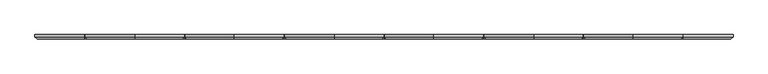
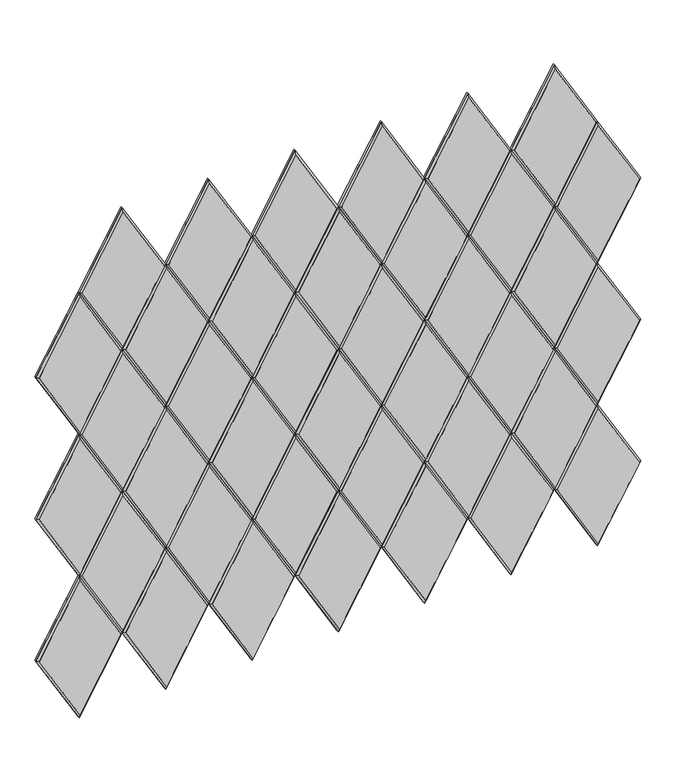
"""IFC4 building model written with IfcOpenShell, lengths in millimetres: proxy geometry, Wall_Cissu 7.3dm."""

from ifc_helpers import new_model, si_unit, origin, place, context, project, spatial, faceted_brep, source, transform, mapped, element, save


def generic_models_63845ec4(model_context):
    return source(origin(), model_context, "Body", "Brep", [
        faceted_brep([(10713.5381137, 6.0, 1209.8374891), (10853.2381137, 6.0, 1451.8049869), (10992.9381137, 6.0, 1209.8374891), (10853.2381137, 6.0, 967.8699913), (10713.5381137, 0.0, 1209.8374891), (10853.2381137, 0.0, 967.8699913), (10992.9381137, 0.0, 1209.8374891), (10853.2381137, 0.0, 1451.8049869), (10986.0099104, -6.0, 1209.8374891), (10853.2381137, -6.0, 1439.8049869), (10720.4663169, -6.0, 1209.8374891), (10853.2381137, -6.0, 979.8699913)], [[[0, 1, 2, 3]], [[4, 0, 3, 5]], [[5, 3, 2, 6]], [[6, 2, 1, 7]], [[7, 1, 0, 4]], [[8, 9, 10, 11]], [[4, 5, 11, 10]], [[5, 6, 8, 11]], [[6, 7, 9, 8]], [[7, 4, 10, 9]]]),
        faceted_brep([(10434.1381137, 6.0, 1209.8374891), (10573.8381137, 6.0, 1451.8049869), (10713.5381137, 6.0, 1209.8374891), (10573.8381137, 6.0, 967.8699913), (10434.1381137, 0.0, 1209.8374891), (10573.8381137, 0.0, 967.8699913), (10713.5381137, 0.0, 1209.8374891), (10573.8381137, 0.0, 1451.8049869), (10706.6099104, -6.0, 1209.8374891), (10573.8381137, -6.0, 1439.8049869), (10441.0663169, -6.0, 1209.8374891), (10573.8381137, -6.0, 979.8699913)], [[[0, 1, 2, 3]], [[4, 0, 3, 5]], [[5, 3, 2, 6]], [[6, 2, 1, 7]], [[7, 1, 0, 4]], [[8, 9, 10, 11]], [[4, 5, 11, 10]], [[5, 6, 8, 11]], [[6, 7, 9, 8]], [[7, 4, 10, 9]]]),
        faceted_brep([(10154.7381137, 6.0, 1209.8374891), (10294.4381137, 6.0, 1451.8049869), (10434.1381137, 6.0, 1209.8374891), (10294.4381137, 6.0, 967.8699913), (10154.7381137, 0.0, 1209.8374891), (10294.4381137, 0.0, 967.8699913), (10434.1381137, 0.0, 1209.8374891), (10294.4381137, 0.0, 1451.8049869), (10427.2099104, -6.0, 1209.8374891), (10294.4381137, -6.0, 1439.8049869), (10161.6663169, -6.0, 1209.8374891), (10294.4381137, -6.0, 979.8699913)], [[[0, 1, 2, 3]], [[4, 0, 3, 5]], [[5, 3, 2, 6]], [[6, 2, 1, 7]], [[7, 1, 0, 4]], [[8, 9, 10, 11]], [[4, 5, 11, 10]], [[5, 6, 8, 11]], [[6, 7, 9, 8]], [[7, 4, 10, 9]]]),
        faceted_brep([(9875.3381137, 6.0, 1209.8374891), (10015.0381137, 6.0, 1451.8049869), (10154.7381137, 6.0, 1209.8374891), (10015.0381137, 6.0, 967.8699913), (9875.3381137, 0.0, 1209.8374891), (10015.0381137, 0.0, 967.8699913), (10154.7381137, 0.0, 1209.8374891), (10015.0381137, 0.0, 1451.8049869), (10147.8099104, -6.0, 1209.8374891), (10015.0381137, -6.0, 1439.8049869), (9882.2663169, -6.0, 1209.8374891), (10015.0381137, -6.0, 979.8699913)], [[[0, 1, 2, 3]], [[4, 0, 3, 5]], [[5, 3, 2, 6]], [[6, 2, 1, 7]], [[7, 1, 0, 4]], [[8, 9, 10, 11]], [[4, 5, 11, 10]], [[5, 6, 8, 11]], [[6, 7, 9, 8]], [[7, 4, 10, 9]]]),
        faceted_brep([(9595.9381137, 6.0, 1209.8374891), (9735.6381137, 6.0, 1451.8049869), (9875.3381137, 6.0, 1209.8374891), (9735.6381137, 6.0, 967.8699913), (9595.9381137, 0.0, 1209.8374891), (9735.6381137, 0.0, 967.8699913), (9875.3381137, 0.0, 1209.8374891), (9735.6381137, 0.0, 1451.8049869), (9868.4099104, -6.0, 1209.8374891), (9735.6381137, -6.0, 1439.8049869), (9602.8663169, -6.0, 1209.8374891), (9735.6381137, -6.0, 979.8699913)], [[[0, 1, 2, 3]], [[4, 0, 3, 5]], [[5, 3, 2, 6]], [[6, 2, 1, 7]], [[7, 1, 0, 4]], [[8, 9, 10, 11]], [[4, 5, 11, 10]], [[5, 6, 8, 11]], [[6, 7, 9, 8]], [[7, 4, 10, 9]]]),
        faceted_brep([(9316.5381137, 6.0, 1209.8374891), (9456.2381137, 6.0, 1451.8049869), (9595.9381137, 6.0, 1209.8374891), (9456.2381137, 6.0, 967.8699913), (9316.5381137, 0.0, 1209.8374891), (9456.2381137, 0.0, 967.8699913), (9595.9381137, 0.0, 1209.8374891), (9456.2381137, 0.0, 1451.8049869), (9589.0099104, -6.0, 1209.8374891), (9456.2381137, -6.0, 1439.8049869), (9323.4663169, -6.0, 1209.8374891), (9456.2381137, -6.0, 979.8699913)], [[[0, 1, 2, 3]], [[4, 0, 3, 5]], [[5, 3, 2, 6]], [[6, 2, 1, 7]], [[7, 1, 0, 4]], [[8, 9, 10, 11]], [[4, 5, 11, 10]], [[5, 6, 8, 11]], [[6, 7, 9, 8]], [[7, 4, 10, 9]]]),
        faceted_brep([(9037.1381137, 6.0, 1209.8374891), (9176.8381137, 6.0, 1451.8049869), (9316.5381137, 6.0, 1209.8374891), (9176.8381137, 6.0, 967.8699913), (9037.1381137, 0.0, 1209.8374891), (9176.8381137, 0.0, 967.8699913), (9316.5381137, 0.0, 1209.8374891), (9176.8381137, 0.0, 1451.8049869), (9309.6099104, -6.0, 1209.8374891), (9176.8381137, -6.0, 1439.8049869), (9044.0663169, -6.0, 1209.8374891), (9176.8381137, -6.0, 979.8699913)], [[[0, 1, 2, 3]], [[4, 0, 3, 5]], [[5, 3, 2, 6]], [[6, 2, 1, 7]], [[7, 1, 0, 4]], [[8, 9, 10, 11]], [[4, 5, 11, 10]], [[5, 6, 8, 11]], [[6, 7, 9, 8]], [[7, 4, 10, 9]]]),
        faceted_brep([(9037.1381137, 6.0, 1693.7724847), (9176.8381137, 6.0, 1935.7399825), (9316.5381137, 6.0, 1693.7724847), (9176.8381137, 6.0, 1451.8049869), (9037.1381137, 0.0, 1693.7724847), (9176.8381137, 0.0, 1451.8049869), (9316.5381137, 0.0, 1693.7724847), (9176.8381137, 0.0, 1935.7399825), (9309.6099104, -6.0, 1693.7724847), (9176.8381137, -6.0, 1923.7399825), (9044.0663169, -6.0, 1693.7724847), (9176.8381137, -6.0, 1463.8049869)], [[[0, 1, 2, 3]], [[4, 0, 3, 5]], [[5, 3, 2, 6]], [[6, 2, 1, 7]], [[7, 1, 0, 4]], [[8, 9, 10, 11]], [[4, 5, 11, 10]], [[5, 6, 8, 11]], [[6, 7, 9, 8]], [[7, 4, 10, 9]]]),
        faceted_brep([(9316.5381137, 6.0, 1693.7724847), (9456.2381137, 6.0, 1935.7399825), (9595.9381137, 6.0, 1693.7724847), (9456.2381137, 6.0, 1451.8049869), (9316.5381137, 0.0, 1693.7724847), (9456.2381137, 0.0, 1451.8049869), (9595.9381137, 0.0, 1693.7724847), (9456.2381137, 0.0, 1935.7399825), (9589.0099104, -6.0, 1693.7724847), (9456.2381137, -6.0, 1923.7399825), (9323.4663169, -6.0, 1693.7724847), (9456.2381137, -6.0, 1463.8049869)], [[[0, 1, 2, 3]], [[4, 0, 3, 5]], [[5, 3, 2, 6]], [[6, 2, 1, 7]], [[7, 1, 0, 4]], [[8, 9, 10, 11]], [[4, 5, 11, 10]], [[5, 6, 8, 11]], [[6, 7, 9, 8]], [[7, 4, 10, 9]]]),
        faceted_brep([(9595.9381137, 6.0, 1693.7724847), (9735.6381137, 6.0, 1935.7399825), (9875.3381137, 6.0, 1693.7724847), (9735.6381137, 6.0, 1451.8049869), (9595.9381137, 0.0, 1693.7724847), (9735.6381137, 0.0, 1451.8049869), (9875.3381137, 0.0, 1693.7724847), (9735.6381137, 0.0, 1935.7399825), (9868.4099104, -6.0, 1693.7724847), (9735.6381137, -6.0, 1923.7399825), (9602.8663169, -6.0, 1693.7724847), (9735.6381137, -6.0, 1463.8049869)], [[[0, 1, 2, 3]], [[4, 0, 3, 5]], [[5, 3, 2, 6]], [[6, 2, 1, 7]], [[7, 1, 0, 4]], [[8, 9, 10, 11]], [[4, 5, 11, 10]], [[5, 6, 8, 11]], [[6, 7, 9, 8]], [[7, 4, 10, 9]]]),
        faceted_brep([(9875.3381137, 6.0, 1693.7724847), (10015.0381137, 6.0, 1935.7399825), (10154.7381137, 6.0, 1693.7724847), (10015.0381137, 6.0, 1451.8049869), (9875.3381137, 0.0, 1693.7724847), (10015.0381137, 0.0, 1451.8049869), (10154.7381137, 0.0, 1693.7724847), (10015.0381137, 0.0, 1935.7399825), (10147.8099104, -6.0, 1693.7724847), (10015.0381137, -6.0, 1923.7399825), (9882.2663169, -6.0, 1693.7724847), (10015.0381137, -6.0, 1463.8049869)], [[[0, 1, 2, 3]], [[4, 0, 3, 5]], [[5, 3, 2, 6]], [[6, 2, 1, 7]], [[7, 1, 0, 4]], [[8, 9, 10, 11]], [[4, 5, 11, 10]], [[5, 6, 8, 11]], [[6, 7, 9, 8]], [[7, 4, 10, 9]]]),
        faceted_brep([(10154.7381137, 6.0, 1693.7724847), (10294.4381137, 6.0, 1935.7399825), (10434.1381137, 6.0, 1693.7724847), (10294.4381137, 6.0, 1451.8049869), (10154.7381137, 0.0, 1693.7724847), (10294.4381137, 0.0, 1451.8049869), (10434.1381137, 0.0, 1693.7724847), (10294.4381137, 0.0, 1935.7399825), (10427.2099104, -6.0, 1693.7724847), (10294.4381137, -6.0, 1923.7399825), (10161.6663169, -6.0, 1693.7724847), (10294.4381137, -6.0, 1463.8049869)], [[[0, 1, 2, 3]], [[4, 0, 3, 5]], [[5, 3, 2, 6]], [[6, 2, 1, 7]], [[7, 1, 0, 4]], [[8, 9, 10, 11]], [[4, 5, 11, 10]], [[5, 6, 8, 11]], [[6, 7, 9, 8]], [[7, 4, 10, 9]]]),
        faceted_brep([(10434.1381137, 6.0, 1693.7724847), (10573.8381137, 6.0, 1935.7399825), (10713.5381137, 6.0, 1693.7724847), (10573.8381137, 6.0, 1451.8049869), (10434.1381137, 0.0, 1693.7724847), (10573.8381137, 0.0, 1451.8049869), (10713.5381137, 0.0, 1693.7724847), (10573.8381137, 0.0, 1935.7399825), (10706.6099104, -6.0, 1693.7724847), (10573.8381137, -6.0, 1923.7399825), (10441.0663169, -6.0, 1693.7724847), (10573.8381137, -6.0, 1463.8049869)], [[[0, 1, 2, 3]], [[4, 0, 3, 5]], [[5, 3, 2, 6]], [[6, 2, 1, 7]], [[7, 1, 0, 4]], [[8, 9, 10, 11]], [[4, 5, 11, 10]], [[5, 6, 8, 11]], [[6, 7, 9, 8]], [[7, 4, 10, 9]]]),
        faceted_brep([(10713.5381137, 6.0, 1693.7724847), (10853.2381137, 6.0, 1935.7399825), (10992.9381137, 6.0, 1693.7724847), (10853.2381137, 6.0, 1451.8049869), (10713.5381137, 0.0, 1693.7724847), (10853.2381137, 0.0, 1451.8049869), (10992.9381137, 0.0, 1693.7724847), (10853.2381137, 0.0, 1935.7399825), (10986.0099104, -6.0, 1693.7724847), (10853.2381137, -6.0, 1923.7399825), (10720.4663169, -6.0, 1693.7724847), (10853.2381137, -6.0, 1463.8049869)], [[[0, 1, 2, 3]], [[4, 0, 3, 5]], [[5, 3, 2, 6]], [[6, 2, 1, 7]], [[7, 1, 0, 4]], [[8, 9, 10, 11]], [[4, 5, 11, 10]], [[5, 6, 8, 11]], [[6, 7, 9, 8]], [[7, 4, 10, 9]]]),
        faceted_brep([(9176.8381137, 6.0, 1451.8049869), (9316.5381137, 6.0, 1693.7724847), (9456.2381137, 6.0, 1451.8049869), (9316.5381137, 6.0, 1209.8374891), (9176.8381137, 0.0, 1451.8049869), (9316.5381137, 0.0, 1209.8374891), (9456.2381137, 0.0, 1451.8049869), (9316.5381137, 0.0, 1693.7724847), (9449.3099104, -6.0, 1451.8049869), (9316.5381137, -6.0, 1681.7724847), (9183.7663169, -6.0, 1451.8049869), (9316.5381137, -6.0, 1221.8374891)], [[[0, 1, 2, 3]], [[4, 0, 3, 5]], [[5, 3, 2, 6]], [[6, 2, 1, 7]], [[7, 1, 0, 4]], [[8, 9, 10, 11]], [[4, 5, 11, 10]], [[5, 6, 8, 11]], [[6, 7, 9, 8]], [[7, 4, 10, 9]]]),
        faceted_brep([(9456.2381137, 6.0, 1451.8049869), (9595.9381137, 6.0, 1693.7724847), (9735.6381137, 6.0, 1451.8049869), (9595.9381137, 6.0, 1209.8374891), (9456.2381137, 0.0, 1451.8049869), (9595.9381137, 0.0, 1209.8374891), (9735.6381137, 0.0, 1451.8049869), (9595.9381137, 0.0, 1693.7724847), (9728.7099104, -6.0, 1451.8049869), (9595.9381137, -6.0, 1681.7724847), (9463.1663169, -6.0, 1451.8049869), (9595.9381137, -6.0, 1221.8374891)], [[[0, 1, 2, 3]], [[4, 0, 3, 5]], [[5, 3, 2, 6]], [[6, 2, 1, 7]], [[7, 1, 0, 4]], [[8, 9, 10, 11]], [[4, 5, 11, 10]], [[5, 6, 8, 11]], [[6, 7, 9, 8]], [[7, 4, 10, 9]]]),
        faceted_brep([(9735.6381137, 6.0, 1451.8049869), (9875.3381137, 6.0, 1693.7724847), (10015.0381137, 6.0, 1451.8049869), (9875.3381137, 6.0, 1209.8374891), (9735.6381137, 0.0, 1451.8049869), (9875.3381137, 0.0, 1209.8374891), (10015.0381137, 0.0, 1451.8049869), (9875.3381137, 0.0, 1693.7724847), (10008.1099104, -6.0, 1451.8049869), (9875.3381137, -6.0, 1681.7724847), (9742.5663169, -6.0, 1451.8049869), (9875.3381137, -6.0, 1221.8374891)], [[[0, 1, 2, 3]], [[4, 0, 3, 5]], [[5, 3, 2, 6]], [[6, 2, 1, 7]], [[7, 1, 0, 4]], [[8, 9, 10, 11]], [[4, 5, 11, 10]], [[5, 6, 8, 11]], [[6, 7, 9, 8]], [[7, 4, 10, 9]]]),
        faceted_brep([(10015.0381137, 6.0, 1451.8049869), (10154.7381137, 6.0, 1693.7724847), (10294.4381137, 6.0, 1451.8049869), (10154.7381137, 6.0, 1209.8374891), (10015.0381137, 0.0, 1451.8049869), (10154.7381137, 0.0, 1209.8374891), (10294.4381137, 0.0, 1451.8049869), (10154.7381137, 0.0, 1693.7724847), (10287.5099104, -6.0, 1451.8049869), (10154.7381137, -6.0, 1681.7724847), (10021.9663169, -6.0, 1451.8049869), (10154.7381137, -6.0, 1221.8374891)], [[[0, 1, 2, 3]], [[4, 0, 3, 5]], [[5, 3, 2, 6]], [[6, 2, 1, 7]], [[7, 1, 0, 4]], [[8, 9, 10, 11]], [[4, 5, 11, 10]], [[5, 6, 8, 11]], [[6, 7, 9, 8]], [[7, 4, 10, 9]]]),
        faceted_brep([(10294.4381137, 6.0, 1451.8049869), (10434.1381137, 6.0, 1693.7724847), (10573.8381137, 6.0, 1451.8049869), (10434.1381137, 6.0, 1209.8374891), (10294.4381137, 0.0, 1451.8049869), (10434.1381137, 0.0, 1209.8374891), (10573.8381137, 0.0, 1451.8049869), (10434.1381137, 0.0, 1693.7724847), (10566.9099104, -6.0, 1451.8049869), (10434.1381137, -6.0, 1681.7724847), (10301.3663169, -6.0, 1451.8049869), (10434.1381137, -6.0, 1221.8374891)], [[[0, 1, 2, 3]], [[4, 0, 3, 5]], [[5, 3, 2, 6]], [[6, 2, 1, 7]], [[7, 1, 0, 4]], [[8, 9, 10, 11]], [[4, 5, 11, 10]], [[5, 6, 8, 11]], [[6, 7, 9, 8]], [[7, 4, 10, 9]]]),
        faceted_brep([(10573.8381137, 6.0, 1451.8049869), (10713.5381137, 6.0, 1693.7724847), (10853.2381137, 6.0, 1451.8049869), (10713.5381137, 6.0, 1209.8374891), (10573.8381137, 0.0, 1451.8049869), (10713.5381137, 0.0, 1209.8374891), (10853.2381137, 0.0, 1451.8049869), (10713.5381137, 0.0, 1693.7724847), (10846.3099104, -6.0, 1451.8049869), (10713.5381137, -6.0, 1681.7724847), (10580.7663169, -6.0, 1451.8049869), (10713.5381137, -6.0, 1221.8374891)], [[[0, 1, 2, 3]], [[4, 0, 3, 5]], [[5, 3, 2, 6]], [[6, 2, 1, 7]], [[7, 1, 0, 4]], [[8, 9, 10, 11]], [[4, 5, 11, 10]], [[5, 6, 8, 11]], [[6, 7, 9, 8]], [[7, 4, 10, 9]]]),
        faceted_brep([(10573.8381137, 6.0, 1935.7399825), (10713.5381137, 6.0, 2177.7074804), (10853.2381137, 6.0, 1935.7399825), (10713.5381137, 6.0, 1693.7724847), (10573.8381137, 0.0, 1935.7399825), (10713.5381137, 0.0, 1693.7724847), (10853.2381137, 0.0, 1935.7399825), (10713.5381137, 0.0, 2177.7074804), (10846.3099104, -6.0, 1935.7399825), (10713.5381137, -6.0, 2165.7074804), (10580.7663169, -6.0, 1935.7399825), (10713.5381137, -6.0, 1705.7724847)], [[[0, 1, 2, 3]], [[4, 0, 3, 5]], [[5, 3, 2, 6]], [[6, 2, 1, 7]], [[7, 1, 0, 4]], [[8, 9, 10, 11]], [[4, 5, 11, 10]], [[5, 6, 8, 11]], [[6, 7, 9, 8]], [[7, 4, 10, 9]]]),
        faceted_brep([(10294.4381137, 6.0, 1935.7399825), (10434.1381137, 6.0, 2177.7074804), (10573.8381137, 6.0, 1935.7399825), (10434.1381137, 6.0, 1693.7724847), (10294.4381137, 0.0, 1935.7399825), (10434.1381137, 0.0, 1693.7724847), (10573.8381137, 0.0, 1935.7399825), (10434.1381137, 0.0, 2177.7074804), (10566.9099104, -6.0, 1935.7399825), (10434.1381137, -6.0, 2165.7074804), (10301.3663169, -6.0, 1935.7399825), (10434.1381137, -6.0, 1705.7724847)], [[[0, 1, 2, 3]], [[4, 0, 3, 5]], [[5, 3, 2, 6]], [[6, 2, 1, 7]], [[7, 1, 0, 4]], [[8, 9, 10, 11]], [[4, 5, 11, 10]], [[5, 6, 8, 11]], [[6, 7, 9, 8]], [[7, 4, 10, 9]]]),
        faceted_brep([(10015.0381137, 6.0, 1935.7399825), (10154.7381137, 6.0, 2177.7074804), (10294.4381137, 6.0, 1935.7399825), (10154.7381137, 6.0, 1693.7724847), (10015.0381137, 0.0, 1935.7399825), (10154.7381137, 0.0, 1693.7724847), (10294.4381137, 0.0, 1935.7399825), (10154.7381137, 0.0, 2177.7074804), (10287.5099104, -6.0, 1935.7399825), (10154.7381137, -6.0, 2165.7074804), (10021.9663169, -6.0, 1935.7399825), (10154.7381137, -6.0, 1705.7724847)], [[[0, 1, 2, 3]], [[4, 0, 3, 5]], [[5, 3, 2, 6]], [[6, 2, 1, 7]], [[7, 1, 0, 4]], [[8, 9, 10, 11]], [[4, 5, 11, 10]], [[5, 6, 8, 11]], [[6, 7, 9, 8]], [[7, 4, 10, 9]]]),
        faceted_brep([(9735.6381137, 6.0, 1935.7399825), (9875.3381137, 6.0, 2177.7074804), (10015.0381137, 6.0, 1935.7399825), (9875.3381137, 6.0, 1693.7724847), (9735.6381137, 0.0, 1935.7399825), (9875.3381137, 0.0, 1693.7724847), (10015.0381137, 0.0, 1935.7399825), (9875.3381137, 0.0, 2177.7074804), (10008.1099104, -6.0, 1935.7399825), (9875.3381137, -6.0, 2165.7074804), (9742.5663169, -6.0, 1935.7399825), (9875.3381137, -6.0, 1705.7724847)], [[[0, 1, 2, 3]], [[4, 0, 3, 5]], [[5, 3, 2, 6]], [[6, 2, 1, 7]], [[7, 1, 0, 4]], [[8, 9, 10, 11]], [[4, 5, 11, 10]], [[5, 6, 8, 11]], [[6, 7, 9, 8]], [[7, 4, 10, 9]]]),
        faceted_brep([(9456.2381137, 6.0, 1935.7399825), (9595.9381137, 6.0, 2177.7074804), (9735.6381137, 6.0, 1935.7399825), (9595.9381137, 6.0, 1693.7724847), (9456.2381137, 0.0, 1935.7399825), (9595.9381137, 0.0, 1693.7724847), (9735.6381137, 0.0, 1935.7399825), (9595.9381137, 0.0, 2177.7074804), (9728.7099104, -6.0, 1935.7399825), (9595.9381137, -6.0, 2165.7074804), (9463.1663169, -6.0, 1935.7399825), (9595.9381137, -6.0, 1705.7724847)], [[[0, 1, 2, 3]], [[4, 0, 3, 5]], [[5, 3, 2, 6]], [[6, 2, 1, 7]], [[7, 1, 0, 4]], [[8, 9, 10, 11]], [[4, 5, 11, 10]], [[5, 6, 8, 11]], [[6, 7, 9, 8]], [[7, 4, 10, 9]]]),
        faceted_brep([(9176.8381137, 6.0, 1935.7399825), (9316.5381137, 6.0, 2177.7074804), (9456.2381137, 6.0, 1935.7399825), (9316.5381137, 6.0, 1693.7724847), (9176.8381137, 0.0, 1935.7399825), (9316.5381137, 0.0, 1693.7724847), (9456.2381137, 0.0, 1935.7399825), (9316.5381137, 0.0, 2177.7074804), (9449.3099104, -6.0, 1935.7399825), (9316.5381137, -6.0, 2165.7074804), (9183.7663169, -6.0, 1935.7399825), (9316.5381137, -6.0, 1705.7724847)], [[[0, 1, 2, 3]], [[4, 0, 3, 5]], [[5, 3, 2, 6]], [[6, 2, 1, 7]], [[7, 1, 0, 4]], [[8, 9, 10, 11]], [[4, 5, 11, 10]], [[5, 6, 8, 11]], [[6, 7, 9, 8]], [[7, 4, 10, 9]]]),
        faceted_brep([(10713.5381137, 6.0, 2177.7074804), (10853.2381137, 6.0, 2419.6749782), (10992.9381137, 6.0, 2177.7074804), (10853.2381137, 6.0, 1935.7399825), (10713.5381137, 0.0, 2177.7074804), (10853.2381137, 0.0, 1935.7399825), (10992.9381137, 0.0, 2177.7074804), (10853.2381137, 0.0, 2419.6749782), (10986.0099104, -6.0, 2177.7074804), (10853.2381137, -6.0, 2407.6749782), (10720.4663169, -6.0, 2177.7074804), (10853.2381137, -6.0, 1947.7399825)], [[[0, 1, 2, 3]], [[4, 0, 3, 5]], [[5, 3, 2, 6]], [[6, 2, 1, 7]], [[7, 1, 0, 4]], [[8, 9, 10, 11]], [[4, 5, 11, 10]], [[5, 6, 8, 11]], [[6, 7, 9, 8]], [[7, 4, 10, 9]]]),
        faceted_brep([(10434.1381137, 6.0, 2177.7074804), (10573.8381137, 6.0, 2419.6749782), (10713.5381137, 6.0, 2177.7074804), (10573.8381137, 6.0, 1935.7399825), (10434.1381137, 0.0, 2177.7074804), (10573.8381137, 0.0, 1935.7399825), (10713.5381137, 0.0, 2177.7074804), (10573.8381137, 0.0, 2419.6749782), (10706.6099104, -6.0, 2177.7074804), (10573.8381137, -6.0, 2407.6749782), (10441.0663169, -6.0, 2177.7074804), (10573.8381137, -6.0, 1947.7399825)], [[[0, 1, 2, 3]], [[4, 0, 3, 5]], [[5, 3, 2, 6]], [[6, 2, 1, 7]], [[7, 1, 0, 4]], [[8, 9, 10, 11]], [[4, 5, 11, 10]], [[5, 6, 8, 11]], [[6, 7, 9, 8]], [[7, 4, 10, 9]]]),
        faceted_brep([(10154.7381137, 6.0, 2177.7074804), (10294.4381137, 6.0, 2419.6749782), (10434.1381137, 6.0, 2177.7074804), (10294.4381137, 6.0, 1935.7399825), (10154.7381137, 0.0, 2177.7074804), (10294.4381137, 0.0, 1935.7399825), (10434.1381137, 0.0, 2177.7074804), (10294.4381137, 0.0, 2419.6749782), (10427.2099104, -6.0, 2177.7074804), (10294.4381137, -6.0, 2407.6749782), (10161.6663169, -6.0, 2177.7074804), (10294.4381137, -6.0, 1947.7399825)], [[[0, 1, 2, 3]], [[4, 0, 3, 5]], [[5, 3, 2, 6]], [[6, 2, 1, 7]], [[7, 1, 0, 4]], [[8, 9, 10, 11]], [[4, 5, 11, 10]], [[5, 6, 8, 11]], [[6, 7, 9, 8]], [[7, 4, 10, 9]]]),
        faceted_brep([(9875.3381137, 6.0, 2177.7074804), (10015.0381137, 6.0, 2419.6749782), (10154.7381137, 6.0, 2177.7074804), (10015.0381137, 6.0, 1935.7399825), (9875.3381137, 0.0, 2177.7074804), (10015.0381137, 0.0, 1935.7399825), (10154.7381137, 0.0, 2177.7074804), (10015.0381137, 0.0, 2419.6749782), (10147.8099104, -6.0, 2177.7074804), (10015.0381137, -6.0, 2407.6749782), (9882.2663169, -6.0, 2177.7074804), (10015.0381137, -6.0, 1947.7399825)], [[[0, 1, 2, 3]], [[4, 0, 3, 5]], [[5, 3, 2, 6]], [[6, 2, 1, 7]], [[7, 1, 0, 4]], [[8, 9, 10, 11]], [[4, 5, 11, 10]], [[5, 6, 8, 11]], [[6, 7, 9, 8]], [[7, 4, 10, 9]]]),
        faceted_brep([(9595.9381137, 6.0, 2177.7074804), (9735.6381137, 6.0, 2419.6749782), (9875.3381137, 6.0, 2177.7074804), (9735.6381137, 6.0, 1935.7399825), (9595.9381137, 0.0, 2177.7074804), (9735.6381137, 0.0, 1935.7399825), (9875.3381137, 0.0, 2177.7074804), (9735.6381137, 0.0, 2419.6749782), (9868.4099104, -6.0, 2177.7074804), (9735.6381137, -6.0, 2407.6749782), (9602.8663169, -6.0, 2177.7074804), (9735.6381137, -6.0, 1947.7399825)], [[[0, 1, 2, 3]], [[4, 0, 3, 5]], [[5, 3, 2, 6]], [[6, 2, 1, 7]], [[7, 1, 0, 4]], [[8, 9, 10, 11]], [[4, 5, 11, 10]], [[5, 6, 8, 11]], [[6, 7, 9, 8]], [[7, 4, 10, 9]]]),
        faceted_brep([(9316.5381137, 6.0, 2177.7074804), (9456.2381137, 6.0, 2419.6749782), (9595.9381137, 6.0, 2177.7074804), (9456.2381137, 6.0, 1935.7399825), (9316.5381137, 0.0, 2177.7074804), (9456.2381137, 0.0, 1935.7399825), (9595.9381137, 0.0, 2177.7074804), (9456.2381137, 0.0, 2419.6749782), (9589.0099104, -6.0, 2177.7074804), (9456.2381137, -6.0, 2407.6749782), (9323.4663169, -6.0, 2177.7074804), (9456.2381137, -6.0, 1947.7399825)], [[[0, 1, 2, 3]], [[4, 0, 3, 5]], [[5, 3, 2, 6]], [[6, 2, 1, 7]], [[7, 1, 0, 4]], [[8, 9, 10, 11]], [[4, 5, 11, 10]], [[5, 6, 8, 11]], [[6, 7, 9, 8]], [[7, 4, 10, 9]]]),
        faceted_brep([(9037.1381137, 6.0, 2177.7074804), (9176.8381137, 6.0, 2419.6749782), (9316.5381137, 6.0, 2177.7074804), (9176.8381137, 6.0, 1935.7399825), (9037.1381137, 0.0, 2177.7074804), (9176.8381137, 0.0, 1935.7399825), (9316.5381137, 0.0, 2177.7074804), (9176.8381137, 0.0, 2419.6749782), (9309.6099104, -6.0, 2177.7074804), (9176.8381137, -6.0, 2407.6749782), (9044.0663169, -6.0, 2177.7074804), (9176.8381137, -6.0, 1947.7399825)], [[[0, 1, 2, 3]], [[4, 0, 3, 5]], [[5, 3, 2, 6]], [[6, 2, 1, 7]], [[7, 1, 0, 4]], [[8, 9, 10, 11]], [[4, 5, 11, 10]], [[5, 6, 8, 11]], [[6, 7, 9, 8]], [[7, 4, 10, 9]]]),
        faceted_brep([(9176.8381137, 6.0, 2419.6749782), (9316.5381137, 6.0, 2661.642476), (9456.2381137, 6.0, 2419.6749782), (9316.5381137, 6.0, 2177.7074804), (9176.8381137, 0.0, 2419.6749782), (9316.5381137, 0.0, 2177.7074804), (9456.2381137, 0.0, 2419.6749782), (9316.5381137, 0.0, 2661.642476), (9449.3099104, -6.0, 2419.6749782), (9316.5381137, -6.0, 2649.642476), (9183.7663169, -6.0, 2419.6749782), (9316.5381137, -6.0, 2189.7074804)], [[[0, 1, 2, 3]], [[4, 0, 3, 5]], [[5, 3, 2, 6]], [[6, 2, 1, 7]], [[7, 1, 0, 4]], [[8, 9, 10, 11]], [[4, 5, 11, 10]], [[5, 6, 8, 11]], [[6, 7, 9, 8]], [[7, 4, 10, 9]]]),
        faceted_brep([(9456.2381137, 6.0, 2419.6749782), (9595.9381137, 6.0, 2661.642476), (9735.6381137, 6.0, 2419.6749782), (9595.9381137, 6.0, 2177.7074804), (9456.2381137, 0.0, 2419.6749782), (9595.9381137, 0.0, 2177.7074804), (9735.6381137, 0.0, 2419.6749782), (9595.9381137, 0.0, 2661.642476), (9728.7099104, -6.0, 2419.6749782), (9595.9381137, -6.0, 2649.642476), (9463.1663169, -6.0, 2419.6749782), (9595.9381137, -6.0, 2189.7074804)], [[[0, 1, 2, 3]], [[4, 0, 3, 5]], [[5, 3, 2, 6]], [[6, 2, 1, 7]], [[7, 1, 0, 4]], [[8, 9, 10, 11]], [[4, 5, 11, 10]], [[5, 6, 8, 11]], [[6, 7, 9, 8]], [[7, 4, 10, 9]]]),
        faceted_brep([(9735.6381137, 6.0, 2419.6749782), (9875.3381137, 6.0, 2661.642476), (10015.0381137, 6.0, 2419.6749782), (9875.3381137, 6.0, 2177.7074804), (9735.6381137, 0.0, 2419.6749782), (9875.3381137, 0.0, 2177.7074804), (10015.0381137, 0.0, 2419.6749782), (9875.3381137, 0.0, 2661.642476), (10008.1099104, -6.0, 2419.6749782), (9875.3381137, -6.0, 2649.642476), (9742.5663169, -6.0, 2419.6749782), (9875.3381137, -6.0, 2189.7074804)], [[[0, 1, 2, 3]], [[4, 0, 3, 5]], [[5, 3, 2, 6]], [[6, 2, 1, 7]], [[7, 1, 0, 4]], [[8, 9, 10, 11]], [[4, 5, 11, 10]], [[5, 6, 8, 11]], [[6, 7, 9, 8]], [[7, 4, 10, 9]]]),
        faceted_brep([(10015.0381137, 6.0, 2419.6749782), (10154.7381137, 6.0, 2661.642476), (10294.4381137, 6.0, 2419.6749782), (10154.7381137, 6.0, 2177.7074804), (10015.0381137, 0.0, 2419.6749782), (10154.7381137, 0.0, 2177.7074804), (10294.4381137, 0.0, 2419.6749782), (10154.7381137, 0.0, 2661.642476), (10287.5099104, -6.0, 2419.6749782), (10154.7381137, -6.0, 2649.642476), (10021.9663169, -6.0, 2419.6749782), (10154.7381137, -6.0, 2189.7074804)], [[[0, 1, 2, 3]], [[4, 0, 3, 5]], [[5, 3, 2, 6]], [[6, 2, 1, 7]], [[7, 1, 0, 4]], [[8, 9, 10, 11]], [[4, 5, 11, 10]], [[5, 6, 8, 11]], [[6, 7, 9, 8]], [[7, 4, 10, 9]]]),
        faceted_brep([(10294.4381137, 6.0, 2419.6749782), (10434.1381137, 6.0, 2661.642476), (10573.8381137, 6.0, 2419.6749782), (10434.1381137, 6.0, 2177.7074804), (10294.4381137, 0.0, 2419.6749782), (10434.1381137, 0.0, 2177.7074804), (10573.8381137, 0.0, 2419.6749782), (10434.1381137, 0.0, 2661.642476), (10566.9099104, -6.0, 2419.6749782), (10434.1381137, -6.0, 2649.642476), (10301.3663169, -6.0, 2419.6749782), (10434.1381137, -6.0, 2189.7074804)], [[[0, 1, 2, 3]], [[4, 0, 3, 5]], [[5, 3, 2, 6]], [[6, 2, 1, 7]], [[7, 1, 0, 4]], [[8, 9, 10, 11]], [[4, 5, 11, 10]], [[5, 6, 8, 11]], [[6, 7, 9, 8]], [[7, 4, 10, 9]]]),
        faceted_brep([(10573.8381137, 6.0, 2419.6749782), (10713.5381137, 6.0, 2661.642476), (10853.2381137, 6.0, 2419.6749782), (10713.5381137, 6.0, 2177.7074804), (10573.8381137, 0.0, 2419.6749782), (10713.5381137, 0.0, 2177.7074804), (10853.2381137, 0.0, 2419.6749782), (10713.5381137, 0.0, 2661.642476), (10846.3099104, -6.0, 2419.6749782), (10713.5381137, -6.0, 2649.642476), (10580.7663169, -6.0, 2419.6749782), (10713.5381137, -6.0, 2189.7074804)], [[[0, 1, 2, 3]], [[4, 0, 3, 5]], [[5, 3, 2, 6]], [[6, 2, 1, 7]], [[7, 1, 0, 4]], [[8, 9, 10, 11]], [[4, 5, 11, 10]], [[5, 6, 8, 11]], [[6, 7, 9, 8]], [[7, 4, 10, 9]]]),
    ])


if __name__ == "__main__":
    model = new_model("IFC4")
    model_context = context("Model", 3, world=origin())
    ifc_project = project(units=[si_unit("LENGTHUNIT", "METRE", prefix="MILLI")], contexts=[model_context])
    site = spatial("IfcSite", under=ifc_project)
    building = spatial("IfcBuilding", under=site)
    placement = place(None, origin())
    generic_models_shape = generic_models_63845ec4(model_context)
    element("IfcBuildingElementProxy", 1, Name="Wall_Cissu 7.3dm", ObjectType="Wall_Cissu 7.3dm", at=placement, inside=building, context=model_context, shape_type="MappedRepresentation", body=[
        mapped(generic_models_shape, transform((0.0, 0.0, 0.0), x_axis=(1.0, 0.0, 0.0), y_axis=(0.0, 1.0, 0.0), z_axis=(0.0, 0.0, 1.0))),
    ])
    save(model, "model.ifc")
